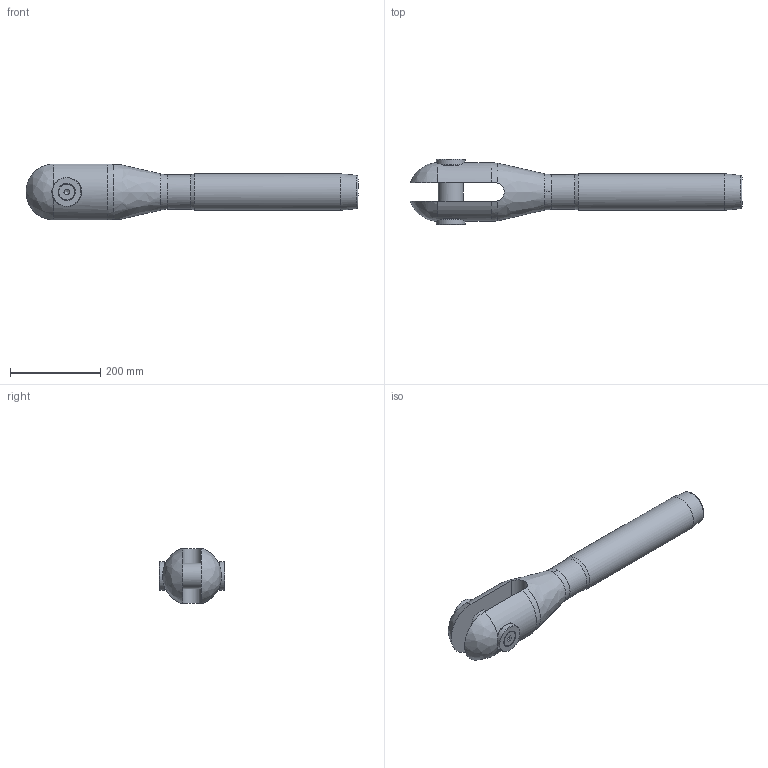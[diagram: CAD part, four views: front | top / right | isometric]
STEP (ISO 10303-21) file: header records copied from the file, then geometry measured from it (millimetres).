
FILE_DESCRIPTION(/* description */ (''),/* implementation_level */ '2;1');
FILE_NAME(/* name */ 'MAC 40_1,4418',/* time_stamp */ '2023-05-23T16:54:59+02:00',/* author */ (''),/* organization */ (''),/* preprocessor_version */ 'ST-DEVELOPER v16.5',/* originating_system */ 'Rhino 7.22',/* authorisation */ '');
FILE_SCHEMA (('CONFIG_CONTROL_DESIGN'));
Length unit declared in the file: millimetre
Products named in the file (1): Document
Bounding box: 737.02 x 144.95 x 124.08 mm (x, y, z)
Volume: 4584726.6 mm3; surface area: 320954 mm2
Topology: 6 solids, 6 shells, 75 faces, 209 edges, 144 vertices
Faces by surface type: plane 29, bspline 24, cylinder 22
Full cylindrical faces by diameter (mm): 17.294 x2, 20 x2, 21 x2, 35.4 x2, 56 x1, 57 x2, 64 x2, 77 x1, 81 x1
Entity records: 3166 total; most frequent: CARTESIAN_POINT 1823, ORIENTED_EDGE 410, EDGE_CURVE 205, VERTEX_POINT 144, EDGE_LOOP 85, B_SPLINE_CURVE_WITH_KNOTS 84, ADVANCED_FACE 75, FACE_OUTER_BOUND 75
